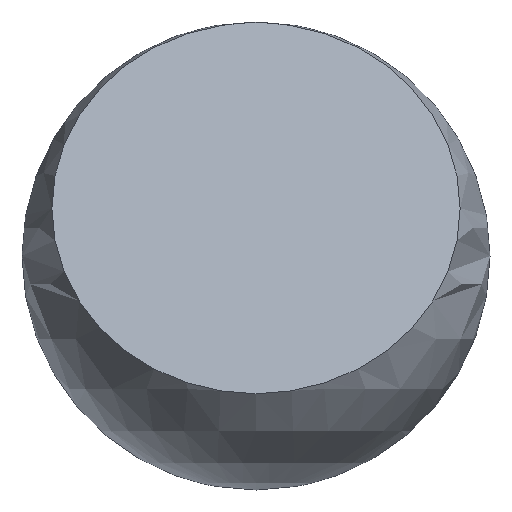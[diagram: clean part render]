
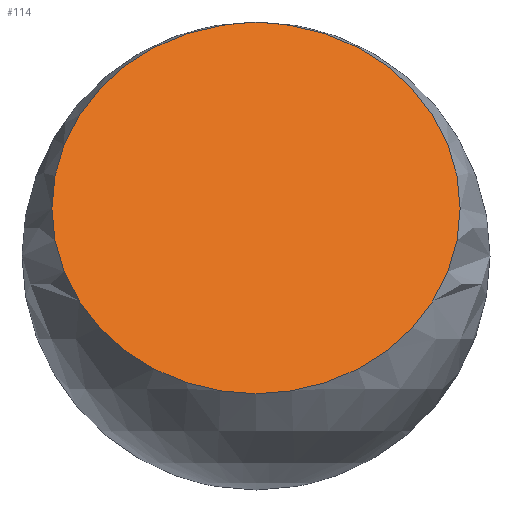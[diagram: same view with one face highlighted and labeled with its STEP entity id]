
A CAD part, front view. The second image highlights one B-rep face of the part: STEP entity #114.
In plain terms, the highlighted planar face has unit normal (0, -0.909, 0.417).
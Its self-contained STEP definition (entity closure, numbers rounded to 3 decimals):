
#114 = ADVANCED_FACE( '', ( #239 ), #240, .F. );
#140 = VERTEX_POINT( '', #270 );
#162 = EDGE_CURVE( '', #140, #170, #295, .T. );
#168 = EDGE_CURVE( '', #170, #140, #301, .T. );
#170 = VERTEX_POINT( '', #303 );
#239 = FACE_OUTER_BOUND( '', #373, .T. );
#240 = PLANE( '', #374 );
#270 = CARTESIAN_POINT( '', ( 0., -41.026, -8.829 ) );
#295 = CIRCLE( '', #443, 13.086 );
#301 = CIRCLE( '', #450, 13.086 );
#303 = CARTESIAN_POINT( '', ( 0., -30.1, 14.952 ) );
#373 = EDGE_LOOP( '', ( #522, #523 ) );
#374 = AXIS2_PLACEMENT_3D( '', #524, #525, #526 );
#443 = AXIS2_PLACEMENT_3D( '', #595, #596, #597 );
#450 = AXIS2_PLACEMENT_3D( '', #602, #603, #604 );
#522 = ORIENTED_EDGE( '', *, *, #168, .F. );
#523 = ORIENTED_EDGE( '', *, *, #162, .F. );
#524 = CARTESIAN_POINT( '', ( 15., -45.66, -18.914 ) );
#525 = DIRECTION( '', ( 0., 0.909, -0.418 ) );
#526 = DIRECTION( '', ( 0., -0.418, -0.909 ) );
#595 = CARTESIAN_POINT( '', ( 0., -35.563, 3.061 ) );
#596 = DIRECTION( '', ( 0., 0.909, -0.418 ) );
#597 = DIRECTION( '', ( 0., -0.418, -0.909 ) );
#602 = CARTESIAN_POINT( '', ( 0., -35.563, 3.061 ) );
#603 = DIRECTION( '', ( 0., 0.909, -0.418 ) );
#604 = DIRECTION( '', ( 0., -0.418, -0.909 ) );
